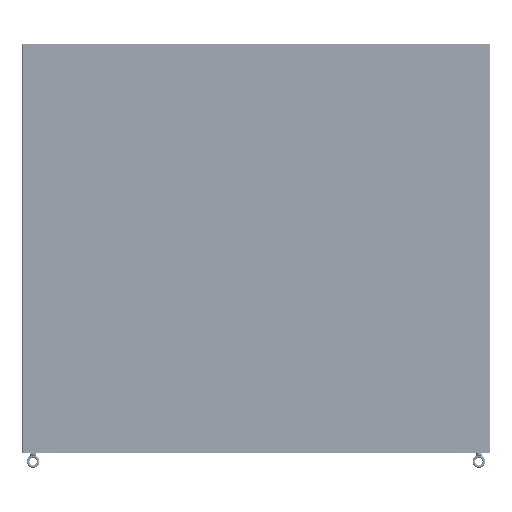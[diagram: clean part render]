
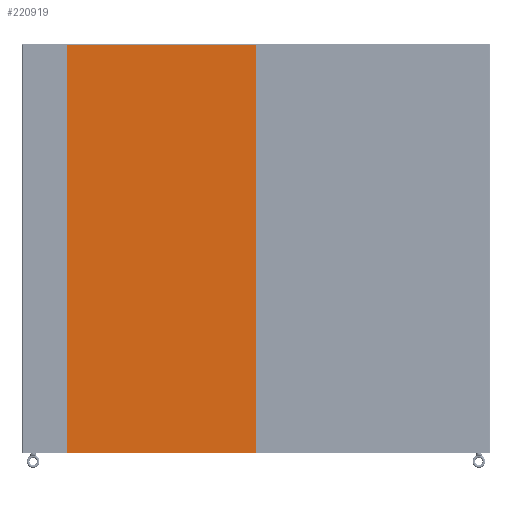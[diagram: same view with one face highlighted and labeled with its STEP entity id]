
A CAD part, left-side view. The second image highlights one B-rep face of the part: STEP entity #220919.
In plain terms, the highlighted planar face has unit normal (-1, 0, 0) as drawn and (0, 0, -1) by its records, which use the part's own axes.
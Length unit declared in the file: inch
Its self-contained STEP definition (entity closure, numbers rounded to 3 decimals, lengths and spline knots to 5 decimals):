
#220613=CARTESIAN_POINT('',(-15.6475,33.856,-0.104));
#220614=DIRECTION('',(0.,0.,-1.));
#220615=DIRECTION('',(-1.,0.,0.));
#220616=AXIS2_PLACEMENT_3D('',#220613,#220614,#220615);
#220621=DIRECTION('',(0.,-1.,0.));
#220622=VECTOR('',#220621,67.712);
#220623=CARTESIAN_POINT('',(-15.6875,33.856,-0.104));
#220624=LINE('',#220623,#220622);
#220628=CARTESIAN_POINT('',(-15.6475,-33.856,-0.104));
#220629=DIRECTION('',(0.,0.,-1.));
#220630=DIRECTION('',(0.,-1.,0.));
#220631=AXIS2_PLACEMENT_3D('',#220628,#220629,#220630);
#220636=DIRECTION('',(1.,0.,0.));
#220637=VECTOR('',#220636,31.295);
#220638=CARTESIAN_POINT('',(-15.6475,-33.896,-0.104));
#220639=LINE('',#220638,#220637);
#220643=CARTESIAN_POINT('',(15.6475,-33.856,-0.104));
#220644=DIRECTION('',(0.,0.,-1.));
#220645=DIRECTION('',(1.,0.,0.));
#220646=AXIS2_PLACEMENT_3D('',#220643,#220644,#220645);
#220651=DIRECTION('',(0.,1.,0.));
#220652=VECTOR('',#220651,67.712);
#220653=CARTESIAN_POINT('',(15.6875,-33.856,-0.104));
#220654=LINE('',#220653,#220652);
#220658=CARTESIAN_POINT('',(15.6475,33.856,-0.104));
#220659=DIRECTION('',(0.,0.,-1.));
#220660=DIRECTION('',(0.,1.,0.));
#220661=AXIS2_PLACEMENT_3D('',#220658,#220659,#220660);
#220666=DIRECTION('',(-1.,0.,0.));
#220667=VECTOR('',#220666,31.295);
#220668=CARTESIAN_POINT('',(15.6475,33.896,-0.104));
#220669=LINE('',#220668,#220667);
#220677=CARTESIAN_POINT('',(-15.6875,33.856,-0.104));
#220678=VERTEX_POINT('',#220677);
#220679=CARTESIAN_POINT('',(-15.6475,33.896,-0.104));
#220680=VERTEX_POINT('',#220679);
#220685=CARTESIAN_POINT('',(-15.6475,-33.896,-0.104));
#220686=VERTEX_POINT('',#220685);
#220687=CARTESIAN_POINT('',(-15.6875,-33.856,-0.104));
#220688=VERTEX_POINT('',#220687);
#220693=CARTESIAN_POINT('',(15.6475,33.896,-0.104));
#220694=VERTEX_POINT('',#220693);
#220695=CARTESIAN_POINT('',(15.6475,-33.896,-0.104));
#220696=VERTEX_POINT('',#220695);
#220699=CARTESIAN_POINT('',(15.6875,33.856,-0.104));
#220700=VERTEX_POINT('',#220699);
#220703=CARTESIAN_POINT('',(15.6875,-33.856,-0.104));
#220704=VERTEX_POINT('',#220703);
#220904=CARTESIAN_POINT('',(0.,0.,-0.104));
#220905=DIRECTION('',(0.,0.,1.));
#220906=DIRECTION('',(1.,0.,0.));
#220907=AXIS2_PLACEMENT_3D('',#220904,#220905,#220906);
#220908=PLANE('',#220907);
#220909=ORIENTED_EDGE('',*,*,#220744,.F.);
#220910=ORIENTED_EDGE('',*,*,#220767,.T.);
#220911=ORIENTED_EDGE('',*,*,#220787,.F.);
#220912=ORIENTED_EDGE('',*,*,#220809,.T.);
#220913=ORIENTED_EDGE('',*,*,#220829,.F.);
#220914=ORIENTED_EDGE('',*,*,#220849,.T.);
#220915=ORIENTED_EDGE('',*,*,#220871,.F.);
#220916=ORIENTED_EDGE('',*,*,#220890,.T.);
#220917=EDGE_LOOP('',(#220909,#220910,#220911,#220912,#220913,#220914,#220915,
#220916));
#220918=FACE_OUTER_BOUND('',#220917,.F.);
#220617=CIRCLE('',#220616,0.04);
#220632=CIRCLE('',#220631,0.04);
#220647=CIRCLE('',#220646,0.04);
#220662=CIRCLE('',#220661,0.04);
#220744=EDGE_CURVE('',#220678,#220680,#220617,.T.);
#220767=EDGE_CURVE('',#220678,#220688,#220624,.T.);
#220787=EDGE_CURVE('',#220686,#220688,#220632,.T.);
#220809=EDGE_CURVE('',#220686,#220696,#220639,.T.);
#220829=EDGE_CURVE('',#220704,#220696,#220647,.T.);
#220849=EDGE_CURVE('',#220704,#220700,#220654,.T.);
#220871=EDGE_CURVE('',#220694,#220700,#220662,.T.);
#220890=EDGE_CURVE('',#220694,#220680,#220669,.T.);
#220919=ADVANCED_FACE('',(#220918),#220908,.F.);
